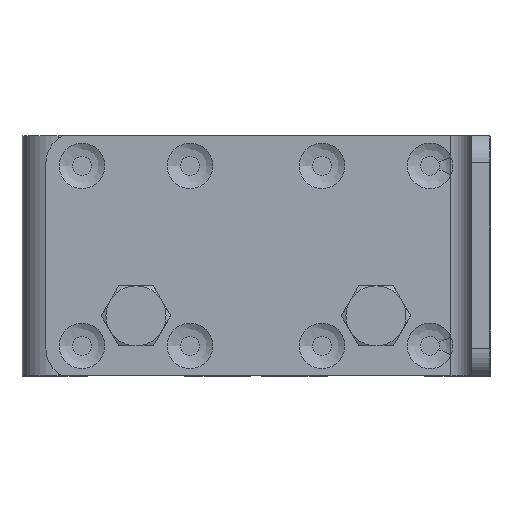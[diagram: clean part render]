
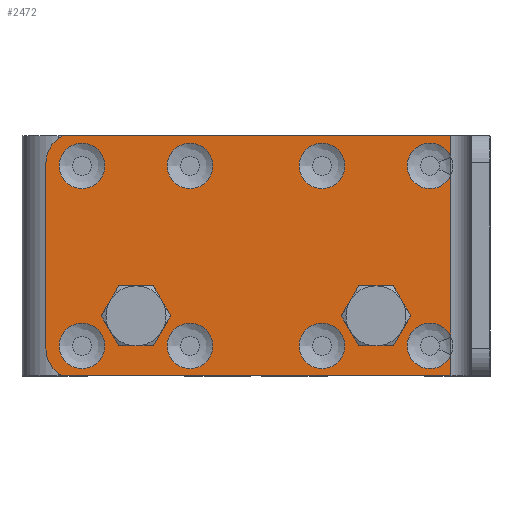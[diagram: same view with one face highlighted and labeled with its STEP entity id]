
A CAD part, top view. The second image highlights one B-rep face of the part: STEP entity #2472.
In plain terms, the highlighted planar face has unit normal (0, 0, 1).
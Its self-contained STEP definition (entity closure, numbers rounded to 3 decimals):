
#63=FACE_BOUND('',#805,.T.);
#64=FACE_BOUND('',#806,.T.);
#65=FACE_BOUND('',#807,.T.);
#66=FACE_BOUND('',#808,.T.);
#67=FACE_BOUND('',#809,.T.);
#68=FACE_BOUND('',#810,.T.);
#69=FACE_BOUND('',#811,.T.);
#70=FACE_BOUND('',#812,.T.);
#147=LINE('',#4407,#331);
#148=LINE('',#4408,#332);
#149=LINE('',#4409,#333);
#153=LINE('',#4416,#337);
#154=LINE('',#4421,#338);
#155=LINE('',#4424,#339);
#331=VECTOR('',#3175,10.);
#332=VECTOR('',#3176,10.);
#333=VECTOR('',#3177,10.);
#337=VECTOR('',#3183,10.);
#338=VECTOR('',#3188,10.);
#339=VECTOR('',#3191,10.);
#526=PLANE('',#2751);
#644=FACE_OUTER_BOUND('',#804,.T.);
#804=EDGE_LOOP('',(#1839,#1840,#1841,#1842,#1843,#1844,#1845,#1846,#1847,
#1848));
#805=EDGE_LOOP('',(#1849,#1850));
#806=EDGE_LOOP('',(#1851,#1852));
#807=EDGE_LOOP('',(#1853,#1854));
#808=EDGE_LOOP('',(#1855,#1856));
#809=EDGE_LOOP('',(#1857,#1858));
#810=EDGE_LOOP('',(#1859,#1860));
#811=EDGE_LOOP('',(#1861));
#812=EDGE_LOOP('',(#1862));
#991=CIRCLE('',#2696,3.8);
#992=CIRCLE('',#2697,3.8);
#996=CIRCLE('',#2702,3.8);
#1002=CIRCLE('',#2709,3.8);
#1007=CIRCLE('',#2715,3.8);
#1008=CIRCLE('',#2716,3.8);
#1011=CIRCLE('',#2720,3.8);
#1012=CIRCLE('',#2721,3.8);
#1015=CIRCLE('',#2725,3.8);
#1016=CIRCLE('',#2726,3.8);
#1019=CIRCLE('',#2730,3.8);
#1020=CIRCLE('',#2731,3.8);
#1023=CIRCLE('',#2735,3.8);
#1024=CIRCLE('',#2736,3.8);
#1031=CIRCLE('',#2752,5.);
#1032=CIRCLE('',#2753,5.);
#1033=CIRCLE('',#2754,5.);
#1034=CIRCLE('',#2755,5.);
#1143=VERTEX_POINT('',#4102);
#1144=VERTEX_POINT('',#4103);
#1147=VERTEX_POINT('',#4138);
#1148=VERTEX_POINT('',#4140);
#1151=VERTEX_POINT('',#4185);
#1152=VERTEX_POINT('',#4187);
#1154=VERTEX_POINT('',#4231);
#1155=VERTEX_POINT('',#4232);
#1157=VERTEX_POINT('',#4266);
#1158=VERTEX_POINT('',#4267);
#1160=VERTEX_POINT('',#4301);
#1161=VERTEX_POINT('',#4302);
#1163=VERTEX_POINT('',#4336);
#1164=VERTEX_POINT('',#4337);
#1166=VERTEX_POINT('',#4371);
#1167=VERTEX_POINT('',#4372);
#1172=VERTEX_POINT('',#4389);
#1175=VERTEX_POINT('',#4396);
#1178=VERTEX_POINT('',#4414);
#1179=VERTEX_POINT('',#4418);
#1180=VERTEX_POINT('',#4420);
#1181=VERTEX_POINT('',#4422);
#1182=VERTEX_POINT('',#4425);
#1183=VERTEX_POINT('',#4427);
#1371=EDGE_CURVE('',#1143,#1144,#991,.T.);
#1372=EDGE_CURVE('',#1144,#1143,#992,.T.);
#1376=EDGE_CURVE('',#1148,#1147,#996,.T.);
#1382=EDGE_CURVE('',#1152,#1151,#1002,.T.);
#1387=EDGE_CURVE('',#1154,#1155,#1007,.T.);
#1388=EDGE_CURVE('',#1155,#1154,#1008,.T.);
#1391=EDGE_CURVE('',#1157,#1158,#1011,.T.);
#1392=EDGE_CURVE('',#1158,#1157,#1012,.T.);
#1395=EDGE_CURVE('',#1160,#1161,#1015,.T.);
#1396=EDGE_CURVE('',#1161,#1160,#1016,.T.);
#1399=EDGE_CURVE('',#1163,#1164,#1019,.T.);
#1400=EDGE_CURVE('',#1164,#1163,#1020,.T.);
#1403=EDGE_CURVE('',#1166,#1167,#1023,.T.);
#1404=EDGE_CURVE('',#1167,#1166,#1024,.T.);
#1421=EDGE_CURVE('',#1151,#1175,#147,.T.);
#1422=EDGE_CURVE('',#1147,#1152,#148,.T.);
#1423=EDGE_CURVE('',#1172,#1148,#149,.T.);
#1427=EDGE_CURVE('',#1175,#1178,#153,.T.);
#1428=EDGE_CURVE('',#1178,#1179,#1031,.T.);
#1429=EDGE_CURVE('',#1179,#1180,#154,.T.);
#1430=EDGE_CURVE('',#1180,#1181,#1032,.T.);
#1431=EDGE_CURVE('',#1181,#1172,#155,.T.);
#1432=EDGE_CURVE('',#1182,#1182,#1033,.T.);
#1433=EDGE_CURVE('',#1183,#1183,#1034,.T.);
#1839=ORIENTED_EDGE('',*,*,#1376,.T.);
#1840=ORIENTED_EDGE('',*,*,#1422,.T.);
#1841=ORIENTED_EDGE('',*,*,#1382,.T.);
#1842=ORIENTED_EDGE('',*,*,#1421,.T.);
#1843=ORIENTED_EDGE('',*,*,#1427,.T.);
#1844=ORIENTED_EDGE('',*,*,#1428,.T.);
#1845=ORIENTED_EDGE('',*,*,#1429,.T.);
#1846=ORIENTED_EDGE('',*,*,#1430,.T.);
#1847=ORIENTED_EDGE('',*,*,#1431,.T.);
#1848=ORIENTED_EDGE('',*,*,#1423,.T.);
#1849=ORIENTED_EDGE('',*,*,#1371,.T.);
#1850=ORIENTED_EDGE('',*,*,#1372,.T.);
#1851=ORIENTED_EDGE('',*,*,#1387,.T.);
#1852=ORIENTED_EDGE('',*,*,#1388,.T.);
#1853=ORIENTED_EDGE('',*,*,#1395,.T.);
#1854=ORIENTED_EDGE('',*,*,#1396,.T.);
#1855=ORIENTED_EDGE('',*,*,#1391,.T.);
#1856=ORIENTED_EDGE('',*,*,#1392,.T.);
#1857=ORIENTED_EDGE('',*,*,#1399,.T.);
#1858=ORIENTED_EDGE('',*,*,#1400,.T.);
#1859=ORIENTED_EDGE('',*,*,#1403,.T.);
#1860=ORIENTED_EDGE('',*,*,#1404,.T.);
#1861=ORIENTED_EDGE('',*,*,#1432,.T.);
#1862=ORIENTED_EDGE('',*,*,#1433,.T.);
#2472=ADVANCED_FACE('',(#644,#63,#64,#65,#66,#67,#68,#69,#70),#526,.T.);
#2696=AXIS2_PLACEMENT_3D('',#4104,#3057,#3058);
#2697=AXIS2_PLACEMENT_3D('',#4105,#3059,#3060);
#2702=AXIS2_PLACEMENT_3D('',#4141,#3069,#3070);
#2709=AXIS2_PLACEMENT_3D('',#4188,#3083,#3084);
#2715=AXIS2_PLACEMENT_3D('',#4233,#3095,#3096);
#2716=AXIS2_PLACEMENT_3D('',#4234,#3097,#3098);
#2720=AXIS2_PLACEMENT_3D('',#4268,#3105,#3106);
#2721=AXIS2_PLACEMENT_3D('',#4269,#3107,#3108);
#2725=AXIS2_PLACEMENT_3D('',#4303,#3115,#3116);
#2726=AXIS2_PLACEMENT_3D('',#4304,#3117,#3118);
#2730=AXIS2_PLACEMENT_3D('',#4338,#3125,#3126);
#2731=AXIS2_PLACEMENT_3D('',#4339,#3127,#3128);
#2735=AXIS2_PLACEMENT_3D('',#4373,#3135,#3136);
#2736=AXIS2_PLACEMENT_3D('',#4374,#3137,#3138);
#2751=AXIS2_PLACEMENT_3D('',#4417,#3184,#3185);
#2752=AXIS2_PLACEMENT_3D('',#4419,#3186,#3187);
#2753=AXIS2_PLACEMENT_3D('',#4423,#3189,#3190);
#2754=AXIS2_PLACEMENT_3D('',#4426,#3192,#3193);
#2755=AXIS2_PLACEMENT_3D('',#4428,#3194,#3195);
#3057=DIRECTION('center_axis',(0.,0.,-1.));
#3058=DIRECTION('ref_axis',(-1.,0.,0.));
#3059=DIRECTION('center_axis',(0.,0.,-1.));
#3060=DIRECTION('ref_axis',(-1.,0.,0.));
#3069=DIRECTION('center_axis',(0.,0.,-1.));
#3070=DIRECTION('ref_axis',(-1.,0.,0.));
#3083=DIRECTION('center_axis',(0.,0.,-1.));
#3084=DIRECTION('ref_axis',(-1.,0.,0.));
#3095=DIRECTION('center_axis',(0.,0.,-1.));
#3096=DIRECTION('ref_axis',(-1.,0.,0.));
#3097=DIRECTION('center_axis',(0.,0.,-1.));
#3098=DIRECTION('ref_axis',(-1.,0.,0.));
#3105=DIRECTION('center_axis',(0.,0.,-1.));
#3106=DIRECTION('ref_axis',(-1.,0.,0.));
#3107=DIRECTION('center_axis',(0.,0.,-1.));
#3108=DIRECTION('ref_axis',(-1.,0.,0.));
#3115=DIRECTION('center_axis',(0.,0.,-1.));
#3116=DIRECTION('ref_axis',(-1.,0.,0.));
#3117=DIRECTION('center_axis',(0.,0.,-1.));
#3118=DIRECTION('ref_axis',(-1.,0.,0.));
#3125=DIRECTION('center_axis',(0.,0.,-1.));
#3126=DIRECTION('ref_axis',(-1.,0.,0.));
#3127=DIRECTION('center_axis',(0.,0.,-1.));
#3128=DIRECTION('ref_axis',(-1.,0.,0.));
#3135=DIRECTION('center_axis',(0.,0.,-1.));
#3136=DIRECTION('ref_axis',(-1.,0.,0.));
#3137=DIRECTION('center_axis',(0.,0.,-1.));
#3138=DIRECTION('ref_axis',(-1.,0.,0.));
#3175=DIRECTION('',(0.,1.,0.));
#3176=DIRECTION('',(0.,1.,0.));
#3177=DIRECTION('',(0.,1.,0.));
#3183=DIRECTION('',(-1.,0.,0.));
#3184=DIRECTION('center_axis',(0.,0.,1.));
#3185=DIRECTION('ref_axis',(1.,0.,0.));
#3186=DIRECTION('center_axis',(0.,0.,1.));
#3187=DIRECTION('ref_axis',(-0.436,0.9,0.));
#3188=DIRECTION('',(0.,-1.,0.));
#3189=DIRECTION('center_axis',(0.,0.,1.));
#3190=DIRECTION('ref_axis',(-1.,0.,0.));
#3191=DIRECTION('',(1.,0.,0.));
#3192=DIRECTION('center_axis',(0.,0.,-1.));
#3193=DIRECTION('ref_axis',(-1.,0.,0.));
#3194=DIRECTION('center_axis',(0.,0.,-1.));
#3195=DIRECTION('ref_axis',(-1.,0.,0.));
#4102=CARTESIAN_POINT('',(-33.7,-15.,0.));
#4103=CARTESIAN_POINT('',(-41.3,-15.,0.));
#4104=CARTESIAN_POINT('Origin',(-37.5,-15.,0.));
#4105=CARTESIAN_POINT('Origin',(-37.5,-15.,0.));
#4138=CARTESIAN_POINT('',(-16.,-13.52,0.));
#4140=CARTESIAN_POINT('',(-16.,-16.48,0.));
#4141=CARTESIAN_POINT('Origin',(-19.5,-15.,0.));
#4185=CARTESIAN_POINT('',(-16.,16.48,0.));
#4187=CARTESIAN_POINT('',(-16.,13.52,0.));
#4188=CARTESIAN_POINT('Origin',(-19.5,15.,0.));
#4231=CARTESIAN_POINT('',(-33.7,15.,0.));
#4232=CARTESIAN_POINT('',(-41.3,15.,0.));
#4233=CARTESIAN_POINT('Origin',(-37.5,15.,0.));
#4234=CARTESIAN_POINT('Origin',(-37.5,15.,0.));
#4266=CARTESIAN_POINT('',(-73.7,-15.,0.));
#4267=CARTESIAN_POINT('',(-81.3,-15.,0.));
#4268=CARTESIAN_POINT('Origin',(-77.5,-15.,0.));
#4269=CARTESIAN_POINT('Origin',(-77.5,-15.,0.));
#4301=CARTESIAN_POINT('',(-55.7,-15.,0.));
#4302=CARTESIAN_POINT('',(-63.3,-15.,0.));
#4303=CARTESIAN_POINT('Origin',(-59.5,-15.,0.));
#4304=CARTESIAN_POINT('Origin',(-59.5,-15.,0.));
#4336=CARTESIAN_POINT('',(-55.7,15.,0.));
#4337=CARTESIAN_POINT('',(-63.3,15.,0.));
#4338=CARTESIAN_POINT('Origin',(-59.5,15.,0.));
#4339=CARTESIAN_POINT('Origin',(-59.5,15.,0.));
#4371=CARTESIAN_POINT('',(-73.7,15.,0.));
#4372=CARTESIAN_POINT('',(-81.3,15.,0.));
#4373=CARTESIAN_POINT('Origin',(-77.5,15.,0.));
#4374=CARTESIAN_POINT('Origin',(-77.5,15.,0.));
#4389=CARTESIAN_POINT('',(-16.,-20.,0.));
#4396=CARTESIAN_POINT('',(-16.,20.,0.));
#4407=CARTESIAN_POINT('',(-16.,10.,0.));
#4408=CARTESIAN_POINT('',(-16.,10.,0.));
#4409=CARTESIAN_POINT('',(-16.,10.,0.));
#4414=CARTESIAN_POINT('',(-80.679,20.,0.));
#4416=CARTESIAN_POINT('',(7.179,20.,0.));
#4417=CARTESIAN_POINT('Origin',(-36.75,0.,0.));
#4418=CARTESIAN_POINT('',(-83.5,15.5,0.));
#4419=CARTESIAN_POINT('Origin',(-78.5,15.5,0.));
#4420=CARTESIAN_POINT('',(-83.5,-15.5,0.));
#4421=CARTESIAN_POINT('',(-83.5,15.5,0.));
#4422=CARTESIAN_POINT('',(-80.679,-20.,0.));
#4423=CARTESIAN_POINT('Origin',(-78.5,-15.5,0.));
#4424=CARTESIAN_POINT('',(-80.679,-20.,0.));
#4425=CARTESIAN_POINT('',(-23.5,-10.,0.));
#4426=CARTESIAN_POINT('Origin',(-28.5,-10.,0.));
#4427=CARTESIAN_POINT('',(-63.5,-10.,0.));
#4428=CARTESIAN_POINT('Origin',(-68.5,-10.,0.));
